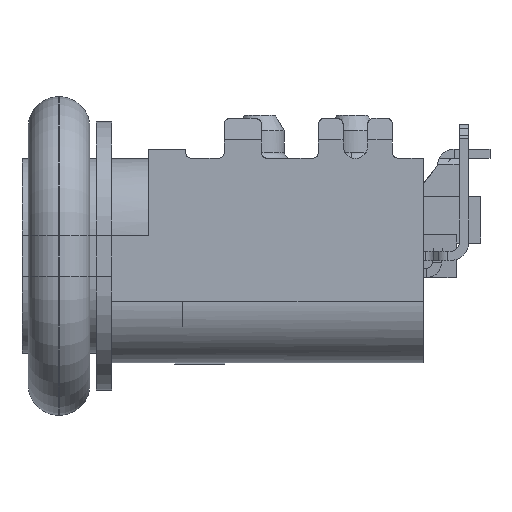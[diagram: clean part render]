
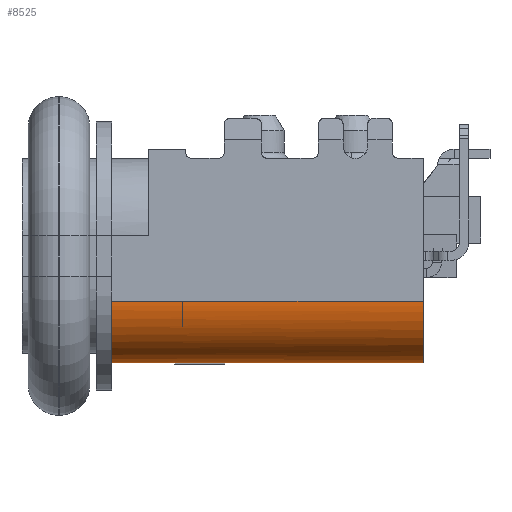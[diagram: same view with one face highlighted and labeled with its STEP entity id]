
A CAD part, left-side view. The second image highlights one B-rep face of the part: STEP entity #8525.
In plain terms, the highlighted cylindrical face has radius 1 mm (diameter 2 mm), a partial arc.
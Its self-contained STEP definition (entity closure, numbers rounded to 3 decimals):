
#70 = DIRECTION ( 'NONE',  ( 0., 0., -1. ) ) ;
#746 = EDGE_LOOP ( 'NONE', ( #50715, #7650, #7990, #53932, #12832 ) ) ;
#4503 = EDGE_CURVE ( 'NONE', #21840, #16538, #34071, .T. ) ;
#5746 = CARTESIAN_POINT ( 'NONE',  ( -4.795, -2.05, -0.73 ) ) ;
#7650 = ORIENTED_EDGE ( 'NONE', *, *, #32381, .T. ) ;
#7990 = ORIENTED_EDGE ( 'NONE', *, *, #53606, .F. ) ;
#8525 = ADVANCED_FACE ( 'NONE', ( #58189 ), #33845, .T. ) ;
#10406 = CARTESIAN_POINT ( 'NONE',  ( -3.969, 3., -1.73 ) ) ;
#11237 = CARTESIAN_POINT ( 'NONE',  ( -3.795, -0.367, -1.73 ) ) ;
#12464 = CARTESIAN_POINT ( 'NONE',  ( -4.795, -2.05, -0.992 ) ) ;
#12832 = ORIENTED_EDGE ( 'NONE', *, *, #59120, .T. ) ;
#15251 = CARTESIAN_POINT ( 'NONE',  ( -4.795, 3., -0.73 ) ) ;
#16538 = VERTEX_POINT ( 'NONE', #35197 ) ;
#21840 = VERTEX_POINT ( 'NONE', #59623 ) ;
#22251 = CARTESIAN_POINT ( 'NONE',  ( -4.795, -2.05, -0.73 ) ) ;
#23169 = CARTESIAN_POINT ( 'NONE',  ( -4.795, -2.05, -0.73 ) ) ;
#25704 = VERTEX_POINT ( 'NONE', #5746 ) ;
#26593 = CARTESIAN_POINT ( 'NONE',  ( -3.795, -2.05, -1.73 ) ) ;
#28087 = B_SPLINE_CURVE_WITH_KNOTS ( 'NONE', 3,
 ( #44703, #33941, #58591, #39019, #54195, #15251 ),
 .UNSPECIFIED., .F., .F.,
 ( 4, 2, 4 ),
 ( 0., 0.5, 1. ),
 .UNSPECIFIED. ) ;
#29675 = CARTESIAN_POINT ( 'NONE',  ( -3.795, 3., -1.73 ) ) ;
#31277 = EDGE_CURVE ( 'NONE', #34897, #25704, #35038, .T. ) ;
#32381 = EDGE_CURVE ( 'NONE', #25704, #40779, #61112, .T. ) ;
#33306 = CARTESIAN_POINT ( 'NONE',  ( -4.795, 3., -0.73 ) ) ;
#33845 = CYLINDRICAL_SURFACE ( 'NONE', #45300, 1. ) ;
#33941 = CARTESIAN_POINT ( 'NONE',  ( -4.448, 3., -1.508 ) ) ;
#34071 = B_SPLINE_CURVE_WITH_KNOTS ( 'NONE', 3,
 ( #53737, #54048, #10406, #29675 ),
 .UNSPECIFIED., .F., .F.,
 ( 4, 4 ),
 ( 0., 1. ),
 .UNSPECIFIED. ) ;
#34897 = VERTEX_POINT ( 'NONE', #26593 ) ;
#35038 = B_SPLINE_CURVE_WITH_KNOTS ( 'NONE', 3,
 ( #50779, #41271, #36506, #42847, #12464, #22251 ),
 .UNSPECIFIED., .F., .F.,
 ( 4, 2, 4 ),
 ( 0., 0.5, 1. ),
 .UNSPECIFIED. ) ;
#35197 = CARTESIAN_POINT ( 'NONE',  ( -3.795, 3., -1.73 ) ) ;
#36506 = CARTESIAN_POINT ( 'NONE',  ( -4.317, -2.05, -1.622 ) ) ;
#39019 = CARTESIAN_POINT ( 'NONE',  ( -4.75, 3., -1.076 ) ) ;
#40779 = VERTEX_POINT ( 'NONE', #44414 ) ;
#41271 = CARTESIAN_POINT ( 'NONE',  ( -4.057, -2.05, -1.73 ) ) ;
#42847 = CARTESIAN_POINT ( 'NONE',  ( -4.687, -2.05, -1.252 ) ) ;
#43061 = CARTESIAN_POINT ( 'NONE',  ( -3.795, -2.151, -0.73 ) ) ;
#44414 = CARTESIAN_POINT ( 'NONE',  ( -4.795, 3., -0.73 ) ) ;
#44703 = CARTESIAN_POINT ( 'NONE',  ( -4.293, 3., -1.597 ) ) ;
#45300 = AXIS2_PLACEMENT_3D ( 'NONE', #43061, #52531, #70 ) ;
#45405 = CARTESIAN_POINT ( 'NONE',  ( -3.795, -2.05, -1.73 ) ) ;
#47890 = CARTESIAN_POINT ( 'NONE',  ( -4.795, 1.317, -0.73 ) ) ;
#49845 = CARTESIAN_POINT ( 'NONE',  ( -3.795, 1.317, -1.73 ) ) ;
#50715 = ORIENTED_EDGE ( 'NONE', *, *, #31277, .T. ) ;
#50779 = CARTESIAN_POINT ( 'NONE',  ( -3.795, -2.05, -1.73 ) ) ;
#51408 = B_SPLINE_CURVE_WITH_KNOTS ( 'NONE', 3,
 ( #53948, #49845, #11237, #45405 ),
 .UNSPECIFIED., .F., .F.,
 ( 4, 4 ),
 ( 0., 1. ),
 .UNSPECIFIED. ) ;
#52531 = DIRECTION ( 'NONE',  ( 0., 1., 0. ) ) ;
#53606 = EDGE_CURVE ( 'NONE', #21840, #40779, #28087, .T. ) ;
#53737 = CARTESIAN_POINT ( 'NONE',  ( -4.293, 3., -1.597 ) ) ;
#53932 = ORIENTED_EDGE ( 'NONE', *, *, #4503, .T. ) ;
#53948 = CARTESIAN_POINT ( 'NONE',  ( -3.795, 3., -1.73 ) ) ;
#54048 = CARTESIAN_POINT ( 'NONE',  ( -4.142, 3., -1.684 ) ) ;
#54195 = CARTESIAN_POINT ( 'NONE',  ( -4.795, 3., -0.909 ) ) ;
#58189 = FACE_OUTER_BOUND ( 'NONE', #746, .T. ) ;
#58591 = CARTESIAN_POINT ( 'NONE',  ( -4.571, 3., -1.386 ) ) ;
#59120 = EDGE_CURVE ( 'NONE', #16538, #34897, #51408, .T. ) ;
#59623 = CARTESIAN_POINT ( 'NONE',  ( -4.293, 3., -1.597 ) ) ;
#61112 = B_SPLINE_CURVE_WITH_KNOTS ( 'NONE', 3,
 ( #23169, #62073, #47890, #33306 ),
 .UNSPECIFIED., .F., .F.,
 ( 4, 4 ),
 ( 0., 1. ),
 .UNSPECIFIED. ) ;
#62073 = CARTESIAN_POINT ( 'NONE',  ( -4.795, -0.367, -0.73 ) ) ;
